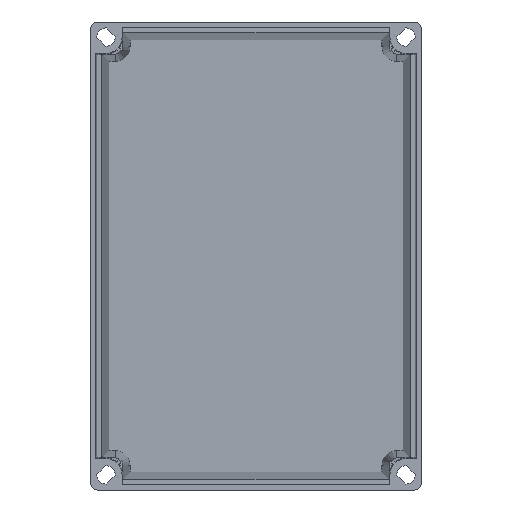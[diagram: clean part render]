
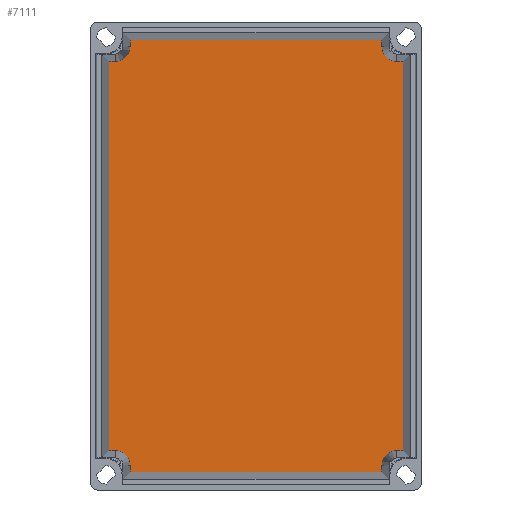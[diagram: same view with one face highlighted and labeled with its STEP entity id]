
A CAD part, front view. The second image highlights one B-rep face of the part: STEP entity #7111.
In plain terms, the highlighted planar face has unit normal (0, -1, 0).
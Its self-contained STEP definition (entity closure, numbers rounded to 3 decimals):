
#176 = VERTEX_POINT ( 'NONE', #6557 ) ;
#177 = ORIENTED_EDGE ( 'NONE', *, *, #178, .T. ) ;
#178 = EDGE_CURVE ( 'NONE', #176, #179, #6556, .T. ) ;
#179 = VERTEX_POINT ( 'NONE', #6552 ) ;
#180 = ORIENTED_EDGE ( 'NONE', *, *, #181, .T. ) ;
#181 = EDGE_CURVE ( 'NONE', #179, #182, #6551, .T. ) ;
#182 = VERTEX_POINT ( 'NONE', #6704 ) ;
#207 = EDGE_CURVE ( 'NONE', #7024, #286, #6832, .T. ) ;
#208 = ORIENTED_EDGE ( 'NONE', *, *, #209, .T. ) ;
#209 = EDGE_CURVE ( 'NONE', #286, #210, #6828, .T. ) ;
#210 = VERTEX_POINT ( 'NONE', #6823 ) ;
#211 = ORIENTED_EDGE ( 'NONE', *, *, #212, .T. ) ;
#212 = EDGE_CURVE ( 'NONE', #210, #213, #6822, .T. ) ;
#213 = VERTEX_POINT ( 'NONE', #6818 ) ;
#214 = ORIENTED_EDGE ( 'NONE', *, *, #215, .T. ) ;
#215 = EDGE_CURVE ( 'NONE', #213, #176, #6817, .T. ) ;
#285 = ORIENTED_EDGE ( 'NONE', *, *, #207, .T. ) ;
#286 = VERTEX_POINT ( 'NONE', #6744 ) ;
#2691 = CARTESIAN_POINT ( 'NONE',  ( 68.625, 98.6, 117.775 ) ) ;
#2692 = DIRECTION ( 'NONE',  ( -1., 0., 0. ) ) ;
#2693 = VECTOR ( 'NONE', #2692, 1000. ) ;
#2694 = CARTESIAN_POINT ( 'NONE',  ( 84.179, 98.6, 106.125 ) ) ;
#2695 = LINE ( 'NONE', #2694, #2693 ) ;
#2696 = CARTESIAN_POINT ( 'NONE',  ( 80.275, 98.6, 106.125 ) ) ;
#2752 = VECTOR ( 'NONE', #2815, 1000. ) ;
#2753 = CARTESIAN_POINT ( 'NONE',  ( 72.529, 98.6, -117.775 ) ) ;
#2754 = LINE ( 'NONE', #2753, #2752 ) ;
#2755 = CARTESIAN_POINT ( 'NONE',  ( -68.625, 98.6, -117.775 ) ) ;
#2756 = DIRECTION ( 'NONE',  ( 0., 0., -1. ) ) ;
#2757 = VECTOR ( 'NONE', #2756, 1000. ) ;
#2758 = CARTESIAN_POINT ( 'NONE',  ( -68.625, 98.6, -114.134 ) ) ;
#2759 = LINE ( 'NONE', #2758, #2757 ) ;
#2803 = CARTESIAN_POINT ( 'NONE',  ( 76.634, 98.6, -106.125 ) ) ;
#2804 = DIRECTION ( 'NONE',  ( 0., 0., 1. ) ) ;
#2805 = DIRECTION ( 'NONE',  ( 0., 1., 0. ) ) ;
#2806 = CARTESIAN_POINT ( 'NONE',  ( 76.634, 98.6, -114.134 ) ) ;
#2807 = AXIS2_PLACEMENT_3D ( 'NONE', #2806, #2805, #2804 ) ;
#2808 = CIRCLE ( 'NONE', #2807, 8.009 ) ;
#2809 = CARTESIAN_POINT ( 'NONE',  ( 68.625, 98.6, -114.134 ) ) ;
#2810 = DIRECTION ( 'NONE',  ( 0., 0., 1. ) ) ;
#2811 = VECTOR ( 'NONE', #2810, 1000. ) ;
#2812 = CARTESIAN_POINT ( 'NONE',  ( 68.625, 98.6, -114.134 ) ) ;
#2813 = LINE ( 'NONE', #2812, #2811 ) ;
#2814 = CARTESIAN_POINT ( 'NONE',  ( 68.625, 98.6, -117.775 ) ) ;
#2815 = DIRECTION ( 'NONE',  ( 1., 0., 0. ) ) ;
#2831 = DIRECTION ( 'NONE',  ( 0., 0., 1. ) ) ;
#2832 = VECTOR ( 'NONE', #2831, 1000. ) ;
#2833 = CARTESIAN_POINT ( 'NONE',  ( 80.275, 98.6, -110.029 ) ) ;
#2834 = LINE ( 'NONE', #2833, #2832 ) ;
#2835 = CARTESIAN_POINT ( 'NONE',  ( 80.275, 98.6, -106.125 ) ) ;
#2836 = DIRECTION ( 'NONE',  ( 1., 0., 0. ) ) ;
#2837 = VECTOR ( 'NONE', #2836, 1000. ) ;
#2838 = CARTESIAN_POINT ( 'NONE',  ( 84.179, 98.6, -106.125 ) ) ;
#2839 = LINE ( 'NONE', #2838, #2837 ) ;
#4252 = CARTESIAN_POINT ( 'NONE',  ( -68.625, 98.6, 117.775 ) ) ;
#4253 = DIRECTION ( 'NONE',  ( 0., 0., 1. ) ) ;
#4254 = VECTOR ( 'NONE', #4253, 1000. ) ;
#4255 = CARTESIAN_POINT ( 'NONE',  ( 68.625, 98.6, 114.134 ) ) ;
#4256 = LINE ( 'NONE', #4255, #4254 ) ;
#4257 = CARTESIAN_POINT ( 'NONE',  ( 68.625, 98.6, 114.134 ) ) ;
#4329 = DIRECTION ( 'NONE',  ( -1., 0., 0. ) ) ;
#4330 = VECTOR ( 'NONE', #4329, 1000. ) ;
#4331 = CARTESIAN_POINT ( 'NONE',  ( 72.529, 98.6, 117.775 ) ) ;
#4332 = LINE ( 'NONE', #4331, #4330 ) ;
#4352 = CARTESIAN_POINT ( 'NONE',  ( 76.634, 98.6, 106.125 ) ) ;
#4353 = DIRECTION ( 'NONE',  ( 0., 0., 1. ) ) ;
#4354 = DIRECTION ( 'NONE',  ( 0., 1., 0. ) ) ;
#4355 = AXIS2_PLACEMENT_3D ( 'NONE', #4361, #4354, #4353 ) ;
#4356 = CIRCLE ( 'NONE', #4355, 8.009 ) ;
#4361 = CARTESIAN_POINT ( 'NONE',  ( 76.634, 98.6, 114.134 ) ) ;
#4390 = DIRECTION ( 'NONE',  ( 0., 0., 1. ) ) ;
#4391 = DIRECTION ( 'NONE',  ( 0., 1., 0. ) ) ;
#4392 = CARTESIAN_POINT ( 'NONE',  ( -85.55, 98.6, -111.45 ) ) ;
#4393 = AXIS2_PLACEMENT_3D ( 'NONE', #4392, #4391, #4390 ) ;
#4394 = PLANE ( 'NONE',  #4393 ) ;
#4395 = FACE_OUTER_BOUND ( 'NONE', #7112, .T. ) ;
#6547 = DIRECTION ( 'NONE',  ( 0., 0., 1. ) ) ;
#6548 = DIRECTION ( 'NONE',  ( 0., 1., 0. ) ) ;
#6549 = CARTESIAN_POINT ( 'NONE',  ( -76.634, 98.6, -114.134 ) ) ;
#6550 = AXIS2_PLACEMENT_3D ( 'NONE', #6549, #6548, #6547 ) ;
#6551 = CIRCLE ( 'NONE', #6550, 8.009 ) ;
#6552 = CARTESIAN_POINT ( 'NONE',  ( -76.634, 98.6, -106.125 ) ) ;
#6553 = DIRECTION ( 'NONE',  ( 1., 0., 0. ) ) ;
#6554 = VECTOR ( 'NONE', #6553, 1000. ) ;
#6555 = CARTESIAN_POINT ( 'NONE',  ( -84.179, 98.6, -106.125 ) ) ;
#6556 = LINE ( 'NONE', #6555, #6554 ) ;
#6557 = CARTESIAN_POINT ( 'NONE',  ( -80.275, 98.6, -106.125 ) ) ;
#6704 = CARTESIAN_POINT ( 'NONE',  ( -68.625, 98.6, -114.134 ) ) ;
#6744 = CARTESIAN_POINT ( 'NONE',  ( -68.625, 98.6, 114.134 ) ) ;
#6814 = DIRECTION ( 'NONE',  ( 0., 0., -1. ) ) ;
#6815 = VECTOR ( 'NONE', #6814, 1000. ) ;
#6816 = CARTESIAN_POINT ( 'NONE',  ( -80.275, 98.6, -110.029 ) ) ;
#6817 = LINE ( 'NONE', #6816, #6815 ) ;
#6818 = CARTESIAN_POINT ( 'NONE',  ( -80.275, 98.6, 106.125 ) ) ;
#6819 = DIRECTION ( 'NONE',  ( -1., 0., 0. ) ) ;
#6820 = VECTOR ( 'NONE', #6819, 1000. ) ;
#6821 = CARTESIAN_POINT ( 'NONE',  ( -84.179, 98.6, 106.125 ) ) ;
#6822 = LINE ( 'NONE', #6821, #6820 ) ;
#6823 = CARTESIAN_POINT ( 'NONE',  ( -76.634, 98.6, 106.125 ) ) ;
#6824 = DIRECTION ( 'NONE',  ( 0., 0., 1. ) ) ;
#6825 = DIRECTION ( 'NONE',  ( 0., 1., 0. ) ) ;
#6826 = CARTESIAN_POINT ( 'NONE',  ( -76.634, 98.6, 114.134 ) ) ;
#6827 = AXIS2_PLACEMENT_3D ( 'NONE', #6826, #6825, #6824 ) ;
#6828 = CIRCLE ( 'NONE', #6827, 8.009 ) ;
#6829 = DIRECTION ( 'NONE',  ( 0., 0., -1. ) ) ;
#6830 = VECTOR ( 'NONE', #6829, 1000. ) ;
#6831 = CARTESIAN_POINT ( 'NONE',  ( -68.625, 98.6, 114.134 ) ) ;
#6832 = LINE ( 'NONE', #6831, #6830 ) ;
#6902 = VERTEX_POINT ( 'NONE', #2696 ) ;
#6903 = ORIENTED_EDGE ( 'NONE', *, *, #6904, .T. ) ;
#6904 = EDGE_CURVE ( 'NONE', #6902, #7084, #2695, .T. ) ;
#6907 = VERTEX_POINT ( 'NONE', #2691 ) ;
#6908 = ORIENTED_EDGE ( 'NONE', *, *, #7047, .T. ) ;
#6950 = ORIENTED_EDGE ( 'NONE', *, *, #6951, .T. ) ;
#6951 = EDGE_CURVE ( 'NONE', #182, #6952, #2759, .T. ) ;
#6952 = VERTEX_POINT ( 'NONE', #2755 ) ;
#6953 = ORIENTED_EDGE ( 'NONE', *, *, #6954, .T. ) ;
#6954 = EDGE_CURVE ( 'NONE', #6952, #6955, #2754, .T. ) ;
#6955 = VERTEX_POINT ( 'NONE', #2814 ) ;
#6956 = ORIENTED_EDGE ( 'NONE', *, *, #6957, .T. ) ;
#6957 = EDGE_CURVE ( 'NONE', #6955, #6958, #2813, .T. ) ;
#6958 = VERTEX_POINT ( 'NONE', #2809 ) ;
#6959 = ORIENTED_EDGE ( 'NONE', *, *, #6960, .T. ) ;
#6960 = EDGE_CURVE ( 'NONE', #6958, #6961, #2808, .T. ) ;
#6961 = VERTEX_POINT ( 'NONE', #2803 ) ;
#6962 = ORIENTED_EDGE ( 'NONE', *, *, #6979, .T. ) ;
#6979 = EDGE_CURVE ( 'NONE', #6961, #6980, #2839, .T. ) ;
#6980 = VERTEX_POINT ( 'NONE', #2835 ) ;
#6981 = ORIENTED_EDGE ( 'NONE', *, *, #6982, .T. ) ;
#6982 = EDGE_CURVE ( 'NONE', #6980, #6902, #2834, .T. ) ;
#7021 = VERTEX_POINT ( 'NONE', #4257 ) ;
#7022 = ORIENTED_EDGE ( 'NONE', *, *, #7023, .T. ) ;
#7023 = EDGE_CURVE ( 'NONE', #7021, #6907, #4256, .T. ) ;
#7024 = VERTEX_POINT ( 'NONE', #4252 ) ;
#7047 = EDGE_CURVE ( 'NONE', #6907, #7024, #4332, .T. ) ;
#7082 = ORIENTED_EDGE ( 'NONE', *, *, #7083, .T. ) ;
#7083 = EDGE_CURVE ( 'NONE', #7084, #7021, #4356, .T. ) ;
#7084 = VERTEX_POINT ( 'NONE', #4352 ) ;
#7111 = ADVANCED_FACE ( 'NONE', ( #4395 ), #4394, .F. ) ;
#7112 = EDGE_LOOP ( 'NONE', ( #7082, #7022, #6908, #285, #208, #211, #214, #177, #180, #6950, #6953, #6956, #6959, #6962, #6981, #6903 ) ) ;
